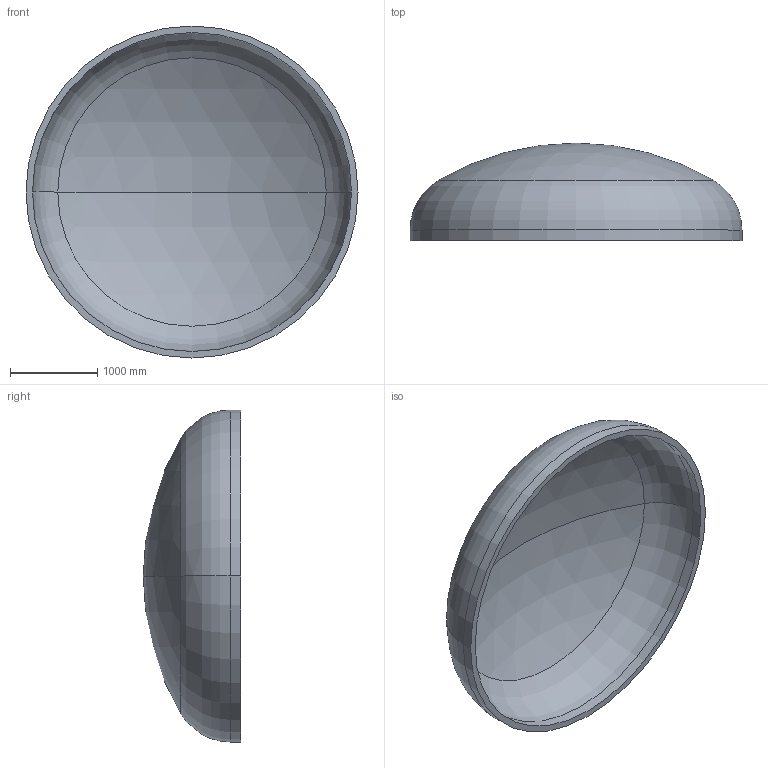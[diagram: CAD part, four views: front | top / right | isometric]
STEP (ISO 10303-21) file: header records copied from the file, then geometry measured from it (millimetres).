
FILE_DESCRIPTION (( 'STEP AP203' ), '1' );
FILE_NAME ('DIN 28013 Korbbogenform_-_Boden DIN 28013 - 3800 x 120 - I - s=74.step', '2016-07-01T21:38:19', ( '' ), ( '' ), 'SwSTEP 2.0', 'SolidWorks 2013', '' );
FILE_SCHEMA (( 'CONFIG_CONTROL_DESIGN' ));
Length unit declared in the file: millimetre
Products named in the file (1): DIN 28013 Korbbogenform_-_Boden DIN 28013 - 3800 x 120 - I - s=74
Bounding box: 3800 x 1115.76 x 3800 mm (x, y, z)
Volume: 1236779877.9 mm3; surface area: 34304152.9 mm2
Topology: 1 solids, 1 shells, 13 faces, 24 edges, 14 vertices
Faces by surface type: torus 4, cylinder 4, sphere 4, plane 1
Entity records: 407 total; most frequent: DIRECTION 72, CARTESIAN_POINT 52, ORIENTED_EDGE 48, AXIS2_PLACEMENT_3D 34, EDGE_CURVE 24, CIRCLE 20, VERTEX_POINT 14, EDGE_LOOP 14
